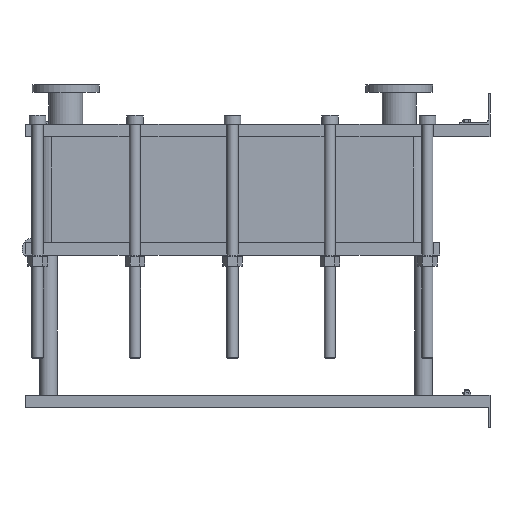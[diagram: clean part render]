
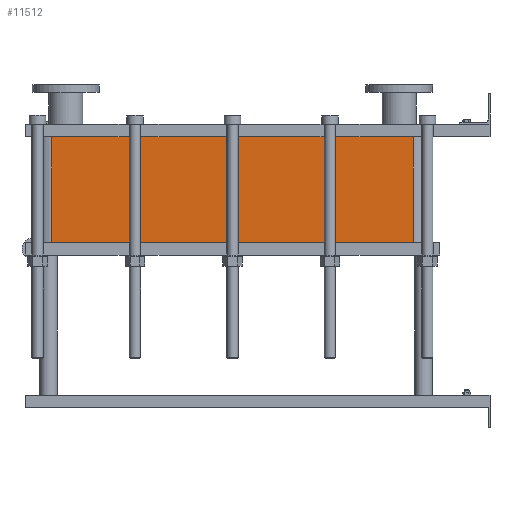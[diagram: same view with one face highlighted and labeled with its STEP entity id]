
A CAD part, left-side view. The second image highlights one B-rep face of the part: STEP entity #11512.
In plain terms, the highlighted planar face has unit normal (-1, 0, 0).
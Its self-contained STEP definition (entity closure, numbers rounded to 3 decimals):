
#1129=LINE('',#23232,#2102);
#1130=LINE('',#23236,#2103);
#1131=LINE('',#23238,#2104);
#1132=LINE('',#23239,#2105);
#2102=VECTOR('',#15887,10.);
#2103=VECTOR('',#15892,10.);
#2104=VECTOR('',#15893,10.);
#2105=VECTOR('',#15894,10.);
#3267=FACE_OUTER_BOUND('',#4093,.T.);
#4093=EDGE_LOOP('',(#10103,#10104,#10105,#10106));
#5642=VERTEX_POINT('',#23229);
#5643=VERTEX_POINT('',#23231);
#5644=VERTEX_POINT('',#23235);
#5645=VERTEX_POINT('',#23237);
#7159=EDGE_CURVE('',#5643,#5642,#1129,.T.);
#7161=EDGE_CURVE('',#5642,#5644,#1130,.T.);
#7162=EDGE_CURVE('',#5645,#5644,#1131,.T.);
#7163=EDGE_CURVE('',#5645,#5643,#1132,.T.);
#10103=ORIENTED_EDGE('',*,*,#7161,.T.);
#10104=ORIENTED_EDGE('',*,*,#7162,.F.);
#10105=ORIENTED_EDGE('',*,*,#7163,.T.);
#10106=ORIENTED_EDGE('',*,*,#7159,.T.);
#10857=PLANE('',#12751);
#11512=ADVANCED_FACE('',(#3267),#10857,.T.);
#12751=AXIS2_PLACEMENT_3D('',#23234,#15890,#15891);
#15887=DIRECTION('',(0.,0.,-1.));
#15890=DIRECTION('center_axis',(-1.,0.,0.));
#15891=DIRECTION('ref_axis',(0.,1.,0.));
#15892=DIRECTION('',(0.,-1.,0.));
#15893=DIRECTION('',(0.,0.,-1.));
#15894=DIRECTION('',(0.,1.,0.));
#23229=CARTESIAN_POINT('',(-200.,1414.,-341.55));
#23231=CARTESIAN_POINT('',(-200.,1414.,0.));
#23232=CARTESIAN_POINT('',(-200.,1414.,0.));
#23234=CARTESIAN_POINT('Origin',(-200.,248.,0.));
#23235=CARTESIAN_POINT('',(-200.,248.,-341.55));
#23236=CARTESIAN_POINT('',(-200.,539.5,-341.55));
#23237=CARTESIAN_POINT('',(-200.,248.,0.));
#23238=CARTESIAN_POINT('',(-200.,248.,0.));
#23239=CARTESIAN_POINT('',(-200.,248.,0.));
